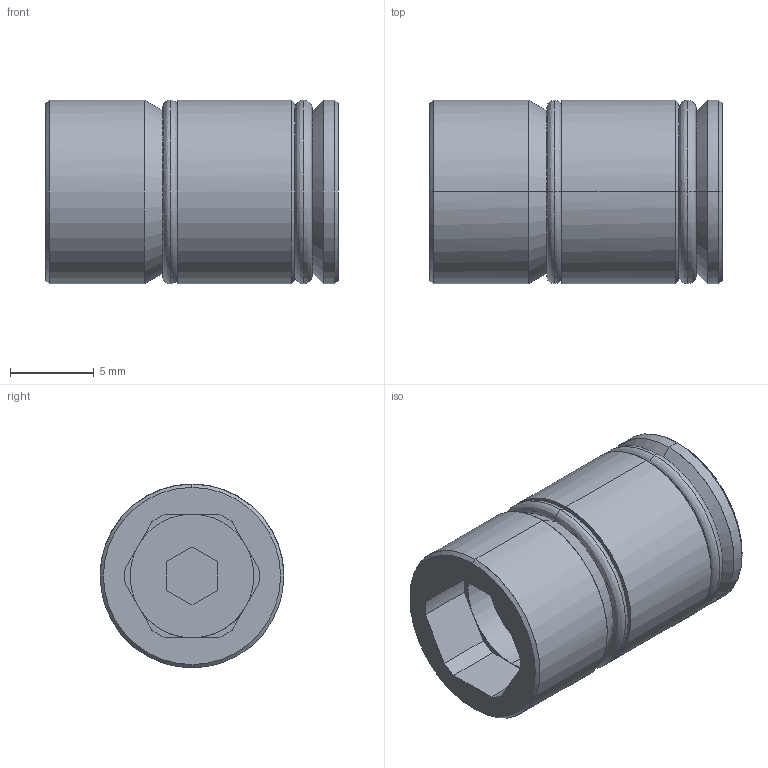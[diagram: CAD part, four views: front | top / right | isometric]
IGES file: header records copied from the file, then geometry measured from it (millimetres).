
Start section: START RECORD GO HERE.
Global section: file name: TRI-11.igs; native system: DASSAULT SYSTEMES CATIA V5 R20 - www.3ds.com; preprocessor: CATIA Version 5 Release 20 ; author: Utente; organization: NB04-ASUS; date: 20210222.201201; units: millimetre
Bounding box: 17.5 x 11 x 11 mm (x, y, z)
Surface area: 1048.9 mm2 (no closed solid volume)
Topology: 0 solids, 0 shells, 56 faces, 304 edges, 304 vertices
Faces by surface type: revolution 32, plane 24
